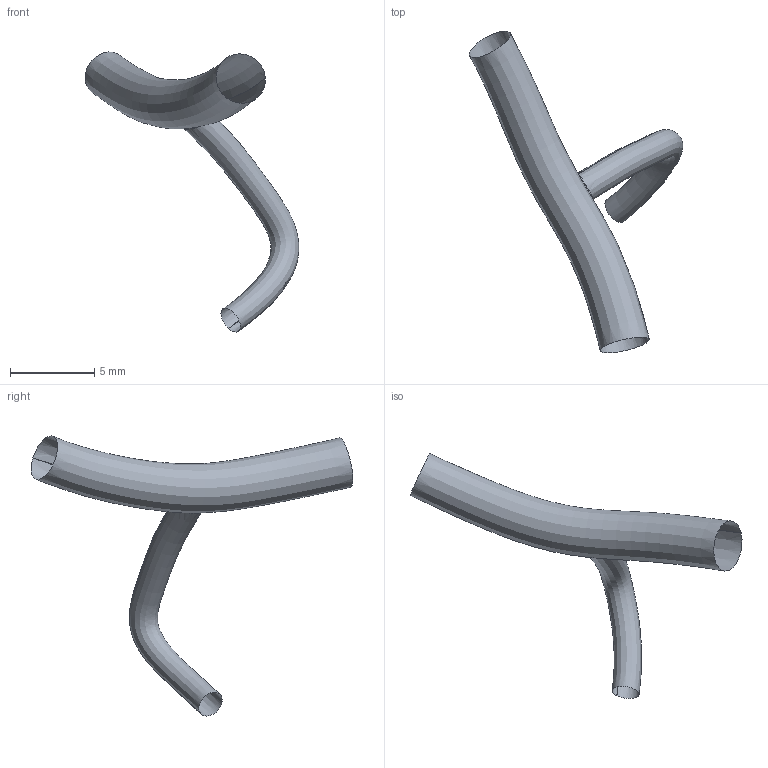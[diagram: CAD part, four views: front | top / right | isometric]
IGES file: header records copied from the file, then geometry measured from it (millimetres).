
Global section: file name: C:\Documents and Settings\Administrator\Desktop\FDA Bifurcation win\RawData_for_IGES\HRCA_Data\20030611.195803\IGES\20030611.195803.RM2.BIFUR.ED.igs; native system: Rhinoceros ( May 19 2006 ); preprocessor: Trout Lake IGES 012 May 19 2006; date: 100728.223235; units: centimetre
Bounding box: 12.69 x 19.11 x 16.64 mm (x, y, z)
Surface area: 269.6 mm2 (no closed solid volume)
Topology: 0 solids, 0 shells, 5 faces, 43 edges, 40 vertices
Faces by surface type: bspline 5
